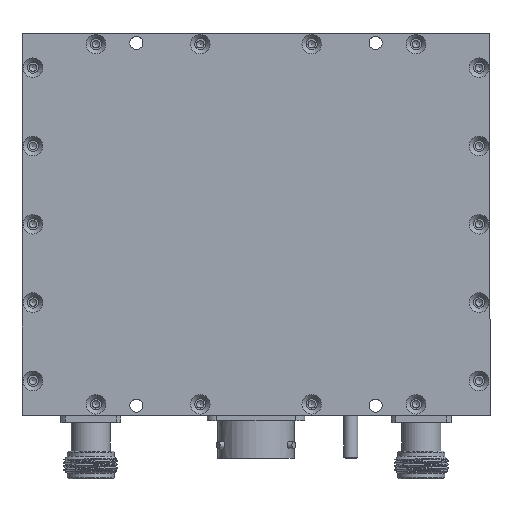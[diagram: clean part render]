
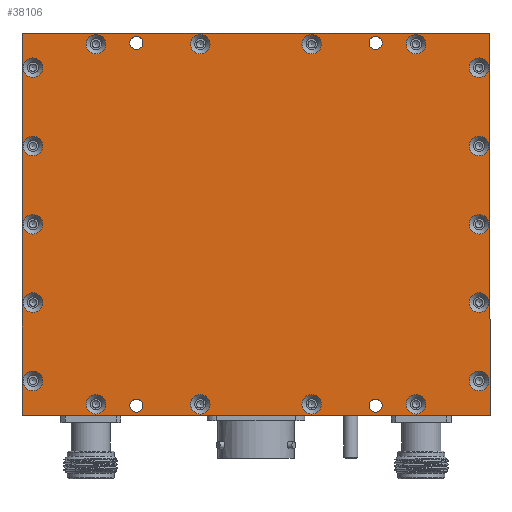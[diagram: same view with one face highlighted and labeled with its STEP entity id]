
A CAD part, top view. The second image highlights one B-rep face of the part: STEP entity #38106.
In plain terms, the highlighted planar face has unit normal (0, 0, 1).
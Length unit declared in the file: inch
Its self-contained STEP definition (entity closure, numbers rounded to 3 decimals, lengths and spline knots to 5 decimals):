
#36934=CARTESIAN_POINT('',(-2.4525,0.0,0.09));
#36935=VERTEX_POINT('',#36934);
#36936=CARTESIAN_POINT('',(-2.565,0.0,0.09));
#36937=DIRECTION('',(0.0,0.0,-1.0));
#36938=DIRECTION('',(1.0,0.0,0.0));
#36939=AXIS2_PLACEMENT_3D('',#36936,#36937,#36938);
#36940=CIRCLE('',#36939,0.1125);
#36941=EDGE_CURVE('',#36935,#36935,#36940,.T.);
#36982=CARTESIAN_POINT('',(2.6775,0.9,0.09));
#36983=VERTEX_POINT('',#36982);
#36984=CARTESIAN_POINT('',(2.565,0.9,0.09));
#36985=DIRECTION('',(0.0,0.0,-1.0));
#36986=DIRECTION('',(1.0,0.0,0.0));
#36987=AXIS2_PLACEMENT_3D('',#36984,#36985,#36986);
#36988=CIRCLE('',#36987,0.1125);
#36989=EDGE_CURVE('',#36983,#36983,#36988,.T.);
#37030=CARTESIAN_POINT('',(2.6775,-1.8,0.09));
#37031=VERTEX_POINT('',#37030);
#37032=CARTESIAN_POINT('',(2.565,-1.8,0.09));
#37033=DIRECTION('',(0.0,0.0,-1.0));
#37034=DIRECTION('',(1.0,0.0,0.0));
#37035=AXIS2_PLACEMENT_3D('',#37032,#37033,#37034);
#37036=CIRCLE('',#37035,0.1125);
#37037=EDGE_CURVE('',#37031,#37031,#37036,.T.);
#37078=CARTESIAN_POINT('',(-2.4525,-0.9,0.09));
#37079=VERTEX_POINT('',#37078);
#37080=CARTESIAN_POINT('',(-2.565,-0.9,0.09));
#37081=DIRECTION('',(0.0,0.0,-1.0));
#37082=DIRECTION('',(1.0,0.0,0.0));
#37083=AXIS2_PLACEMENT_3D('',#37080,#37081,#37082);
#37084=CIRCLE('',#37083,0.1125);
#37085=EDGE_CURVE('',#37079,#37079,#37084,.T.);
#37126=CARTESIAN_POINT('',(-2.4525,1.8,0.09));
#37127=VERTEX_POINT('',#37126);
#37128=CARTESIAN_POINT('',(-2.565,1.8,0.09));
#37129=DIRECTION('',(0.0,0.0,-1.0));
#37130=DIRECTION('',(1.0,0.0,0.0));
#37131=AXIS2_PLACEMENT_3D('',#37128,#37129,#37130);
#37132=CIRCLE('',#37131,0.1125);
#37133=EDGE_CURVE('',#37127,#37127,#37132,.T.);
#37174=CARTESIAN_POINT('',(-1.7275,-2.07,0.09));
#37175=VERTEX_POINT('',#37174);
#37176=CARTESIAN_POINT('',(-1.84,-2.07,0.09));
#37177=DIRECTION('',(0.0,0.0,-1.0));
#37178=DIRECTION('',(1.0,0.0,0.0));
#37179=AXIS2_PLACEMENT_3D('',#37176,#37177,#37178);
#37180=CIRCLE('',#37179,0.1125);
#37181=EDGE_CURVE('',#37175,#37175,#37180,.T.);
#37222=CARTESIAN_POINT('',(0.7525,-2.07,0.09));
#37223=VERTEX_POINT('',#37222);
#37224=CARTESIAN_POINT('',(0.64,-2.07,0.09));
#37225=DIRECTION('',(0.0,0.0,-1.0));
#37226=DIRECTION('',(1.0,0.0,0.0));
#37227=AXIS2_PLACEMENT_3D('',#37224,#37225,#37226);
#37228=CIRCLE('',#37227,0.1125);
#37229=EDGE_CURVE('',#37223,#37223,#37228,.T.);
#37270=CARTESIAN_POINT('',(1.9525,2.07,0.09));
#37271=VERTEX_POINT('',#37270);
#37272=CARTESIAN_POINT('',(1.84,2.07,0.09));
#37273=DIRECTION('',(0.0,0.0,-1.0));
#37274=DIRECTION('',(1.0,0.0,0.0));
#37275=AXIS2_PLACEMENT_3D('',#37272,#37273,#37274);
#37276=CIRCLE('',#37275,0.1125);
#37277=EDGE_CURVE('',#37271,#37271,#37276,.T.);
#37318=CARTESIAN_POINT('',(-1.7275,2.07,0.09));
#37319=VERTEX_POINT('',#37318);
#37320=CARTESIAN_POINT('',(-1.84,2.07,0.09));
#37321=DIRECTION('',(0.0,0.0,-1.0));
#37322=DIRECTION('',(1.0,0.0,0.0));
#37323=AXIS2_PLACEMENT_3D('',#37320,#37321,#37322);
#37324=CIRCLE('',#37323,0.1125);
#37325=EDGE_CURVE('',#37319,#37319,#37324,.T.);
#37366=CARTESIAN_POINT('',(-0.5275,2.07,0.09));
#37367=VERTEX_POINT('',#37366);
#37368=CARTESIAN_POINT('',(-0.64,2.07,0.09));
#37369=DIRECTION('',(0.0,0.0,-1.0));
#37370=DIRECTION('',(1.0,0.0,0.0));
#37371=AXIS2_PLACEMENT_3D('',#37368,#37369,#37370);
#37372=CIRCLE('',#37371,0.1125);
#37373=EDGE_CURVE('',#37367,#37367,#37372,.T.);
#37414=CARTESIAN_POINT('',(0.7525,2.07,0.09));
#37415=VERTEX_POINT('',#37414);
#37416=CARTESIAN_POINT('',(0.64,2.07,0.09));
#37417=DIRECTION('',(0.0,0.0,-1.0));
#37418=DIRECTION('',(1.0,0.0,0.0));
#37419=AXIS2_PLACEMENT_3D('',#37416,#37417,#37418);
#37420=CIRCLE('',#37419,0.1125);
#37421=EDGE_CURVE('',#37415,#37415,#37420,.T.);
#37462=CARTESIAN_POINT('',(1.9525,-2.07,0.09));
#37463=VERTEX_POINT('',#37462);
#37464=CARTESIAN_POINT('',(1.84,-2.07,0.09));
#37465=DIRECTION('',(0.0,0.0,-1.0));
#37466=DIRECTION('',(1.0,0.0,0.0));
#37467=AXIS2_PLACEMENT_3D('',#37464,#37465,#37466);
#37468=CIRCLE('',#37467,0.1125);
#37469=EDGE_CURVE('',#37463,#37463,#37468,.T.);
#37510=CARTESIAN_POINT('',(-0.5275,-2.07,0.09));
#37511=VERTEX_POINT('',#37510);
#37512=CARTESIAN_POINT('',(-0.64,-2.07,0.09));
#37513=DIRECTION('',(0.0,0.0,-1.0));
#37514=DIRECTION('',(1.0,0.0,0.0));
#37515=AXIS2_PLACEMENT_3D('',#37512,#37513,#37514);
#37516=CIRCLE('',#37515,0.1125);
#37517=EDGE_CURVE('',#37511,#37511,#37516,.T.);
#37558=CARTESIAN_POINT('',(-2.4525,0.9,0.09));
#37559=VERTEX_POINT('',#37558);
#37560=CARTESIAN_POINT('',(-2.565,0.9,0.09));
#37561=DIRECTION('',(0.0,0.0,-1.0));
#37562=DIRECTION('',(1.0,0.0,0.0));
#37563=AXIS2_PLACEMENT_3D('',#37560,#37561,#37562);
#37564=CIRCLE('',#37563,0.1125);
#37565=EDGE_CURVE('',#37559,#37559,#37564,.T.);
#37606=CARTESIAN_POINT('',(-2.4525,-1.8,0.09));
#37607=VERTEX_POINT('',#37606);
#37608=CARTESIAN_POINT('',(-2.565,-1.8,0.09));
#37609=DIRECTION('',(0.0,0.0,-1.0));
#37610=DIRECTION('',(1.0,0.0,0.0));
#37611=AXIS2_PLACEMENT_3D('',#37608,#37609,#37610);
#37612=CIRCLE('',#37611,0.1125);
#37613=EDGE_CURVE('',#37607,#37607,#37612,.T.);
#37654=CARTESIAN_POINT('',(2.6775,-0.9,0.09));
#37655=VERTEX_POINT('',#37654);
#37656=CARTESIAN_POINT('',(2.565,-0.9,0.09));
#37657=DIRECTION('',(0.0,0.0,-1.0));
#37658=DIRECTION('',(1.0,0.0,0.0));
#37659=AXIS2_PLACEMENT_3D('',#37656,#37657,#37658);
#37660=CIRCLE('',#37659,0.1125);
#37661=EDGE_CURVE('',#37655,#37655,#37660,.T.);
#37702=CARTESIAN_POINT('',(2.6775,1.8,0.09));
#37703=VERTEX_POINT('',#37702);
#37704=CARTESIAN_POINT('',(2.565,1.8,0.09));
#37705=DIRECTION('',(0.0,0.0,-1.0));
#37706=DIRECTION('',(1.0,0.0,0.0));
#37707=AXIS2_PLACEMENT_3D('',#37704,#37705,#37706);
#37708=CIRCLE('',#37707,0.1125);
#37709=EDGE_CURVE('',#37703,#37703,#37708,.T.);
#37750=CARTESIAN_POINT('',(2.6775,0.0,0.09));
#37751=VERTEX_POINT('',#37750);
#37752=CARTESIAN_POINT('',(2.565,0.0,0.09));
#37753=DIRECTION('',(0.0,0.0,-1.0));
#37754=DIRECTION('',(1.0,0.0,0.0));
#37755=AXIS2_PLACEMENT_3D('',#37752,#37753,#37754);
#37756=CIRCLE('',#37755,0.1125);
#37757=EDGE_CURVE('',#37751,#37751,#37756,.T.);
#37809=CARTESIAN_POINT('',(1.45,-2.085,0.09));
#37810=VERTEX_POINT('',#37809);
#37811=CARTESIAN_POINT('',(1.375,-2.085,0.09));
#37812=DIRECTION('',(0.0,0.0,-1.0));
#37813=DIRECTION('',(1.0,0.0,0.0));
#37814=AXIS2_PLACEMENT_3D('',#37811,#37812,#37813);
#37815=CIRCLE('',#37814,0.075);
#37816=EDGE_CURVE('',#37810,#37810,#37815,.T.);
#37837=CARTESIAN_POINT('',(-1.3,2.085,0.09));
#37838=VERTEX_POINT('',#37837);
#37839=CARTESIAN_POINT('',(-1.375,2.085,0.09));
#37840=DIRECTION('',(0.0,0.0,-1.0));
#37841=DIRECTION('',(1.0,0.0,0.0));
#37842=AXIS2_PLACEMENT_3D('',#37839,#37840,#37841);
#37843=CIRCLE('',#37842,0.075);
#37844=EDGE_CURVE('',#37838,#37838,#37843,.T.);
#37865=CARTESIAN_POINT('',(1.45,2.085,0.09));
#37866=VERTEX_POINT('',#37865);
#37867=CARTESIAN_POINT('',(1.375,2.085,0.09));
#37868=DIRECTION('',(0.0,0.0,-1.0));
#37869=DIRECTION('',(1.0,0.0,0.0));
#37870=AXIS2_PLACEMENT_3D('',#37867,#37868,#37869);
#37871=CIRCLE('',#37870,0.075);
#37872=EDGE_CURVE('',#37866,#37866,#37871,.T.);
#37893=CARTESIAN_POINT('',(-1.3,-2.085,0.09));
#37894=VERTEX_POINT('',#37893);
#37895=CARTESIAN_POINT('',(-1.375,-2.085,0.09));
#37896=DIRECTION('',(0.0,0.0,-1.0));
#37897=DIRECTION('',(1.0,0.0,0.0));
#37898=AXIS2_PLACEMENT_3D('',#37895,#37896,#37897);
#37899=CIRCLE('',#37898,0.075);
#37900=EDGE_CURVE('',#37894,#37894,#37899,.T.);
#37920=CARTESIAN_POINT('',(2.69,2.195,0.09));
#37921=VERTEX_POINT('',#37920);
#37928=CARTESIAN_POINT('',(2.69,-2.195,0.09));
#37929=VERTEX_POINT('',#37928);
#37930=CARTESIAN_POINT('',(2.69,-2.195,0.09));
#37931=DIRECTION('',(0.0,1.0,0.0));
#37932=VECTOR('',#37931,4.39);
#37933=LINE('',#37930,#37932);
#37934=EDGE_CURVE('',#37929,#37921,#37933,.T.);
#37959=CARTESIAN_POINT('',(-2.69,-2.195,0.09));
#37960=VERTEX_POINT('',#37959);
#37961=CARTESIAN_POINT('',(-2.69,-2.195,0.09));
#37962=DIRECTION('',(1.0,0.0,0.0));
#37963=VECTOR('',#37962,5.38);
#37964=LINE('',#37961,#37963);
#37965=EDGE_CURVE('',#37960,#37929,#37964,.T.);
#37990=CARTESIAN_POINT('',(-2.69,2.195,0.09));
#37991=VERTEX_POINT('',#37990);
#37992=CARTESIAN_POINT('',(-2.69,2.195,0.09));
#37993=DIRECTION('',(0.0,-1.0,0.0));
#37994=VECTOR('',#37993,4.39);
#37995=LINE('',#37992,#37994);
#37996=EDGE_CURVE('',#37991,#37960,#37995,.T.);
#38019=CARTESIAN_POINT('',(2.69,2.195,0.09));
#38020=DIRECTION('',(-1.0,0.0,0.0));
#38021=VECTOR('',#38020,5.38);
#38022=LINE('',#38019,#38021);
#38023=EDGE_CURVE('',#37921,#37991,#38022,.T.);
#38029=CARTESIAN_POINT('',(0.0,0.,0.09));
#38030=DIRECTION('',(0.0,0.0,1.0));
#38031=DIRECTION('',(1.0,0.0,0.0));
#38032=AXIS2_PLACEMENT_3D('',#38029,#38030,#38031);
#38033=PLANE('',#38032);
#38034=ORIENTED_EDGE('',*,*,#38023,.T.);
#38035=ORIENTED_EDGE('',*,*,#37996,.T.);
#38036=ORIENTED_EDGE('',*,*,#37965,.T.);
#38037=ORIENTED_EDGE('',*,*,#37934,.T.);
#38038=EDGE_LOOP('',(#38034,#38035,#38036,#38037));
#38039=FACE_OUTER_BOUND('',#38038,.T.);
#38040=ORIENTED_EDGE('',*,*,#36941,.T.);
#38041=EDGE_LOOP('',(#38040));
#38042=FACE_BOUND('',#38041,.T.);
#38043=ORIENTED_EDGE('',*,*,#36989,.T.);
#38044=EDGE_LOOP('',(#38043));
#38045=FACE_BOUND('',#38044,.T.);
#38046=ORIENTED_EDGE('',*,*,#37037,.T.);
#38047=EDGE_LOOP('',(#38046));
#38048=FACE_BOUND('',#38047,.T.);
#38049=ORIENTED_EDGE('',*,*,#37085,.T.);
#38050=EDGE_LOOP('',(#38049));
#38051=FACE_BOUND('',#38050,.T.);
#38052=ORIENTED_EDGE('',*,*,#37133,.T.);
#38053=EDGE_LOOP('',(#38052));
#38054=FACE_BOUND('',#38053,.T.);
#38055=ORIENTED_EDGE('',*,*,#37181,.T.);
#38056=EDGE_LOOP('',(#38055));
#38057=FACE_BOUND('',#38056,.T.);
#38058=ORIENTED_EDGE('',*,*,#37229,.T.);
#38059=EDGE_LOOP('',(#38058));
#38060=FACE_BOUND('',#38059,.T.);
#38061=ORIENTED_EDGE('',*,*,#37277,.T.);
#38062=EDGE_LOOP('',(#38061));
#38063=FACE_BOUND('',#38062,.T.);
#38064=ORIENTED_EDGE('',*,*,#37325,.T.);
#38065=EDGE_LOOP('',(#38064));
#38066=FACE_BOUND('',#38065,.T.);
#38067=ORIENTED_EDGE('',*,*,#37373,.T.);
#38068=EDGE_LOOP('',(#38067));
#38069=FACE_BOUND('',#38068,.T.);
#38070=ORIENTED_EDGE('',*,*,#37421,.T.);
#38071=EDGE_LOOP('',(#38070));
#38072=FACE_BOUND('',#38071,.T.);
#38073=ORIENTED_EDGE('',*,*,#37469,.T.);
#38074=EDGE_LOOP('',(#38073));
#38075=FACE_BOUND('',#38074,.T.);
#38076=ORIENTED_EDGE('',*,*,#37517,.T.);
#38077=EDGE_LOOP('',(#38076));
#38078=FACE_BOUND('',#38077,.T.);
#38079=ORIENTED_EDGE('',*,*,#37565,.T.);
#38080=EDGE_LOOP('',(#38079));
#38081=FACE_BOUND('',#38080,.T.);
#38082=ORIENTED_EDGE('',*,*,#37613,.T.);
#38083=EDGE_LOOP('',(#38082));
#38084=FACE_BOUND('',#38083,.T.);
#38085=ORIENTED_EDGE('',*,*,#37661,.T.);
#38086=EDGE_LOOP('',(#38085));
#38087=FACE_BOUND('',#38086,.T.);
#38088=ORIENTED_EDGE('',*,*,#37709,.T.);
#38089=EDGE_LOOP('',(#38088));
#38090=FACE_BOUND('',#38089,.T.);
#38091=ORIENTED_EDGE('',*,*,#37757,.T.);
#38092=EDGE_LOOP('',(#38091));
#38093=FACE_BOUND('',#38092,.T.);
#38094=ORIENTED_EDGE('',*,*,#37816,.T.);
#38095=EDGE_LOOP('',(#38094));
#38096=FACE_BOUND('',#38095,.T.);
#38097=ORIENTED_EDGE('',*,*,#37844,.T.);
#38098=EDGE_LOOP('',(#38097));
#38099=FACE_BOUND('',#38098,.T.);
#38100=ORIENTED_EDGE('',*,*,#37872,.T.);
#38101=EDGE_LOOP('',(#38100));
#38102=FACE_BOUND('',#38101,.T.);
#38103=ORIENTED_EDGE('',*,*,#37900,.T.);
#38104=EDGE_LOOP('',(#38103));
#38105=FACE_BOUND('',#38104,.T.);
#38106=ADVANCED_FACE('',(#38039,#38042,#38045,#38048,#38051,#38054,#38057,#38060,#38063,#38066,#38069,#38072,#38075,#38078,#38081,#38084,#38087,#38090,#38093,#38096,#38099,#38102,#38105),#38033,.T.);
